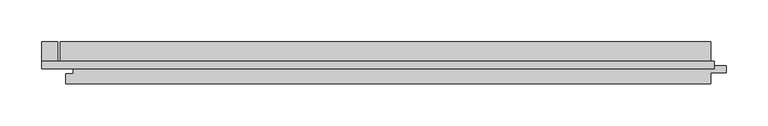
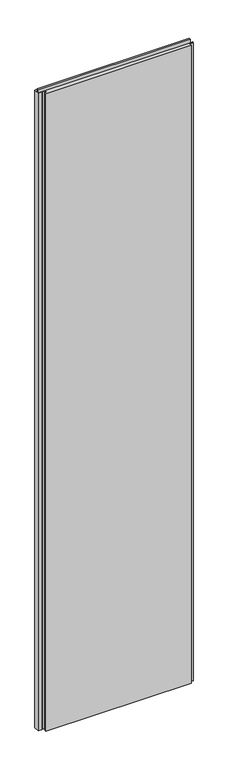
"""IFC4 building model written with IfcOpenShell, lengths in millimetres: plate geometry, Trimo_Qbiss Screen_Normal Panel-VERTICAL : HR - FB."""

from ifc_helpers import new_model, si_unit, frame, origin, place, context, project, spatial, polyline, outline, extrude, source, transform, mapped, element, save


def plate_cac39632(model_context):
    return source(origin(), model_context, "Body", "SweptSolid", [
        extrude(outline(polyline([(-338.0, 97.0), (-338.0, 126.0), (-319.0, 126.0), (-319.0, 97.0), (-338.0, 97.0)])), frame((0.0, 0.0, 12.5), z_axis=(0.0, 0.0, 1.0), x_axis=(1.0, 0.0, 0.0)), (0.0, 0.0, 1.0), 3575.0),
        extrude(outline(polyline([(-338.0, 93.9), (-338.0, 102.6), (467.0, 102.6), (467.0, 93.9), (-338.0, 93.9)])), frame((0.0, 0.0, 3590.5), z_axis=(0.0, 0.0, 1.0), x_axis=(1.0, 0.0, 0.0)), (0.0, 0.0, 1.0), 19.0),
        extrude(outline(polyline([(463.0, 97.0), (481.5, 97.0), (481.5, 89.0), (463.0, 89.0), (463.0, 76.0), (-309.0, 76.0), (-309.0, 88.0), (-300.5, 88.0), (-300.5, 98.0), (-316.0, 98.0), (-316.0, 126.0), (463.0, 126.0), (463.0, 97.0)])), frame((0.0, 0.0, 12.5), z_axis=(0.0, 0.0, 1.0), x_axis=(1.0, 0.0, 0.0)), (0.0, 0.0, 1.0), 3575.0),
    ])


if __name__ == "__main__":
    model = new_model("IFC4")
    model_context = context("Model", 3, world=origin())
    ifc_project = project(units=[si_unit("LENGTHUNIT", "METRE", prefix="MILLI")], contexts=[model_context])
    site = spatial("IfcSite", under=ifc_project)
    building = spatial("IfcBuilding", under=site)
    placement = place(None, origin())
    plate_shape = plate_cac39632(model_context)
    element("IfcPlate", 1, ObjectType="Trimo_Qbiss Screen_Normal Panel-VERTICAL : HR - FB", at=placement, inside=building, context=model_context, shape_type="MappedRepresentation", body=[
        mapped(plate_shape, transform((0.0, 0.0, 0.0), x_axis=(1.0, 0.0, 0.0), y_axis=(0.0, 1.0, 0.0), z_axis=(0.0, 0.0, 1.0))),
    ])
    save(model, "model.ifc")
